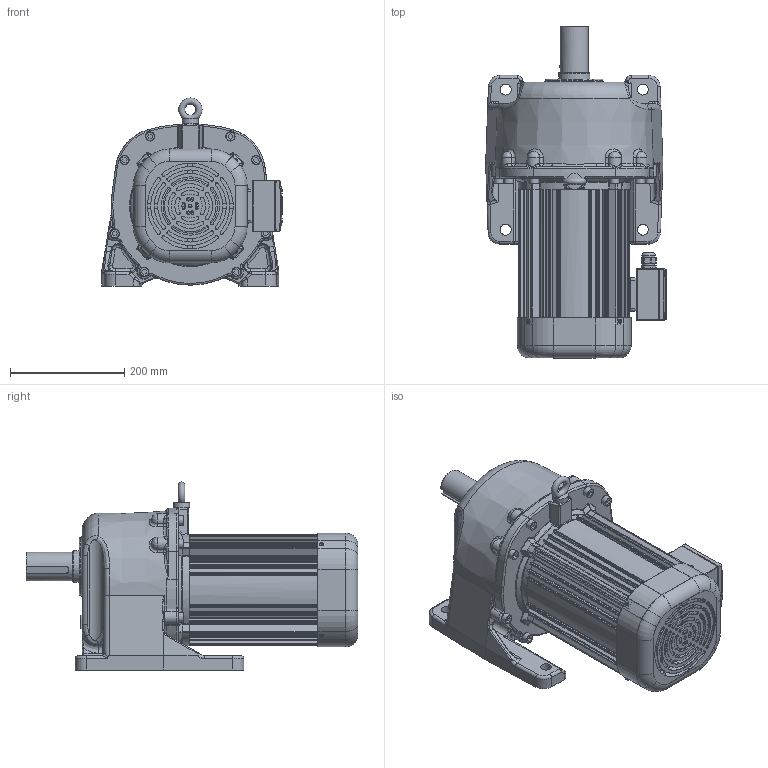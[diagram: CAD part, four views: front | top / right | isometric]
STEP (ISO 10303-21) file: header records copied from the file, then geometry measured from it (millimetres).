
FILE_DESCRIPTION(/* description */ (''),/* implementation_level */ '2;1');
FILE_NAME(/* name */ 'Z:\동력 3D 파일\PML181_2.2kW_3D.stp',/* time_stamp */ '2021-11-30T15:34:53+09:00',/* author */ ('jaebok'),/* organization */ (''),/* preprocessor_version */ 'ST-DEVELOPER v18.1',/* originating_system */ 'Autodesk Inventor 2022',/* authorisation */ '');
FILE_SCHEMA (('AUTOMOTIVE_DESIGN { 1 0 10303 214 3 1 1 }'));
Products named in the file (1): 부품11
Bounding box: 316 x 580.5 x 329 mm (x, y, z)
Volume: 6917935 mm3; surface area: 1482076.7 mm2
Topology: 1 solids, 40 shells, 3620 faces, 9139 edges, 5460 vertices
Faces by surface type: plane 1097, cylinder 958, bspline 826, torus 406, cone 221, sphere 112
Full cylindrical faces by diameter (mm): 3.25 x1, 3.5 x4, 3.6 x4, 4 x21, 5 x13, 6 x5, 6.8 x4, 7 x8, 8 x9, 8.4 x8, 9 x4, 10 x17, 10.2 x1, 11 x8, 12 x2, 12.5 x1, 15 x1, 16 x8, 19 x4, 20 x2, 21 x1, 22 x1, 23.6 x1, 25 x1, 26 x1, 28 x1, 31 x1, 36 x2, 48 x1, 49.6 x1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
Entity records: 141588 total; most frequent: CARTESIAN_POINT 55865, ORIENTED_EDGE 17798, DIRECTION 16284, EDGE_CURVE 8899, AXIS2_PLACEMENT_3D 6624, VERTEX_POINT 5460, EDGE_LOOP 3855, CIRCLE 3753
